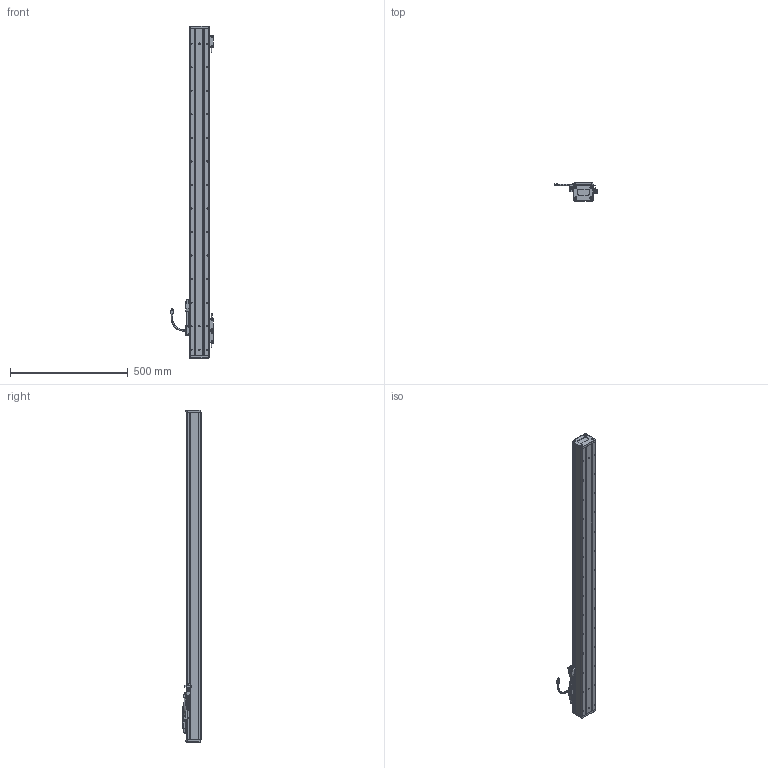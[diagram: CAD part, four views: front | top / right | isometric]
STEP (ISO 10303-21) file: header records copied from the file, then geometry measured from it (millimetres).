
FILE_DESCRIPTION(('Open CASCADE Model'),'2;1');
FILE_NAME('Open CASCADE Shape Model','2025-11-07T02:29:51',('Author'),( 'Open CASCADE'),'Open CASCADE STEP processor 7.6','Open CASCADE 7.6' ,'Unknown');
FILE_SCHEMA(('AUTOMOTIVE_DESIGN { 1 0 10303 214 1 1 1 1 }'));
Length unit declared in the file: millimetre
Products named in the file (24): Open CASCADE STEP translator 7.6 181; Open CASCADE STEP translator 7.6 181.1; Open CASCADE STEP translator 7.6 181.2; Open CASCADE STEP translator 7.6 181.3; Open CASCADE STEP translator 7.6 181.4; Open CASCADE STEP translator 7.6 181.5; Open CASCADE STEP translator 7.6 181.6; Open CASCADE STEP translator 7.6 181.7; Open CASCADE STEP translator 7.6 181.7.1; Open CASCADE STEP translator 7.6 181.7.1.1; Open CASCADE STEP translator 7.6 181.7.1.2; Open CASCADE STEP translator 7.6 181.8; Open CASCADE STEP translator 7.6 181.9; Open CASCADE STEP translator 7.6 181.10; Open CASCADE STEP translator 7.6 181.10.1; Open CASCADE STEP translator 7.6 181.10.1.1; Open CASCADE STEP translator 7.6 181.10.1.2; Open CASCADE STEP translator 7.6 181.10.1.3; Open CASCADE STEP translator 7.6 181.11; Open CASCADE STEP translator 7.6 181.12; Open CASCADE STEP translator 7.6 181.13; Open CASCADE STEP translator 7.6 181.14; Open CASCADE STEP translator 7.6 181.15; Open CASCADE STEP translator 7.6 181.16
Assembly tree (23 placements, depth 4):
  Open CASCADE STEP translator 7.6 181
    Open CASCADE STEP translator 7.6 181.1
    Open CASCADE STEP translator 7.6 181.2
    Open CASCADE STEP translator 7.6 181.3
    Open CASCADE STEP translator 7.6 181.4
    Open CASCADE STEP translator 7.6 181.5
    Open CASCADE STEP translator 7.6 181.6
    Open CASCADE STEP translator 7.6 181.7
      Open CASCADE STEP translator 7.6 181.7.1
        Open CASCADE STEP translator 7.6 181.7.1.1
        Open CASCADE STEP translator 7.6 181.7.1.2
    Open CASCADE STEP translator 7.6 181.8
    Open CASCADE STEP translator 7.6 181.9
    Open CASCADE STEP translator 7.6 181.10
      Open CASCADE STEP translator 7.6 181.10.1
        Open CASCADE STEP translator 7.6 181.10.1.1
        Open CASCADE STEP translator 7.6 181.10.1.2
        Open CASCADE STEP translator 7.6 181.10.1.3
    Open CASCADE STEP translator 7.6 181.11
    Open CASCADE STEP translator 7.6 181.12
    Open CASCADE STEP translator 7.6 181.13
    Open CASCADE STEP translator 7.6 181.14
    Open CASCADE STEP translator 7.6 181.15
    Open CASCADE STEP translator 7.6 181.16
Bounding box: 181.25 x 78 x 1410 mm (x, y, z)
Volume: 4156718.3 mm3; surface area: 872740.2 mm2
Topology: 19 solids, 19 shells, 1980 faces, 5031 edges, 3201 vertices
Faces by surface type: plane 1090, cylinder 688, cone 112, torus 54, bspline 30, sphere 6
Entity records: 137913 total; most frequent: CARTESIAN_POINT 37295, DIRECTION 19045, LINE 11746, VECTOR 11746, ORIENTED_EDGE 9964, PCURVE 9964, DEFINITIONAL_REPRESENTATION 9964, EDGE_CURVE 4982
